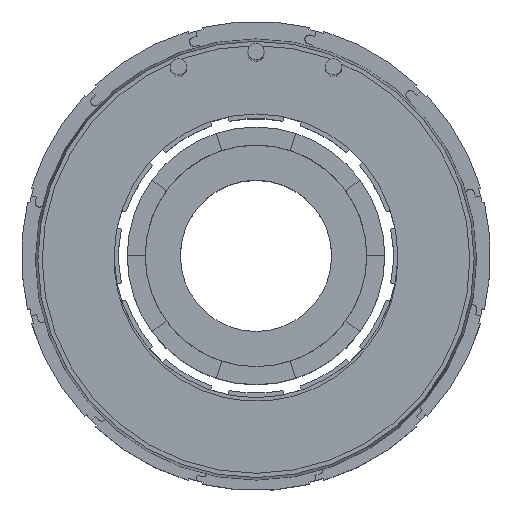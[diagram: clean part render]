
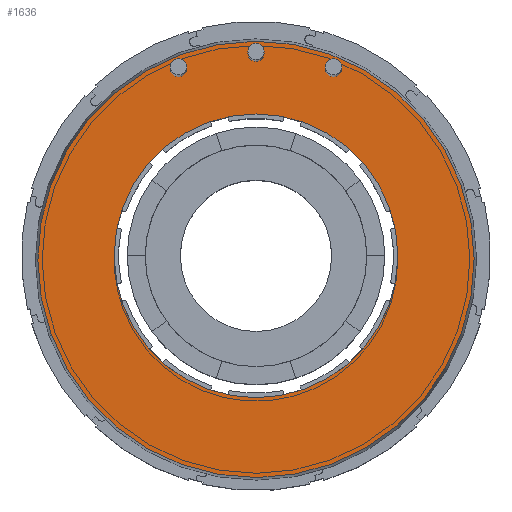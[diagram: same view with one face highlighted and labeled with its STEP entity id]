
A CAD part, top view. The second image highlights one B-rep face of the part: STEP entity #1636.
In plain terms, the highlighted planar face has unit normal (0, 0, 1).
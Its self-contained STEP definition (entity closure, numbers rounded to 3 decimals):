
#353 = ORIENTED_EDGE ( 'NONE', *, *, #12346, .F. ) ;
#415 = CARTESIAN_POINT ( 'NONE',  ( -25.495, -17.102, 47.135 ) ) ;
#482 = EDGE_LOOP ( 'NONE', ( #353, #11334 ) ) ;
#489 = DIRECTION ( 'NONE',  ( 0., -1., 0. ) ) ;
#522 = DIRECTION ( 'NONE',  ( -0.939, -0.345, 0. ) ) ;
#607 = CARTESIAN_POINT ( 'NONE',  ( -9.745, -17.102, 47.135 ) ) ;
#612 = CARTESIAN_POINT ( 'NONE',  ( -18.356, 3.685, 47.135 ) ) ;
#638 = AXIS2_PLACEMENT_3D ( 'NONE', #3180, #8429, #4326 ) ;
#933 = CARTESIAN_POINT ( 'NONE',  ( -19.256, 3.685, 47.135 ) ) ;
#952 = ORIENTED_EDGE ( 'NONE', *, *, #3616, .F. ) ;
#991 = CARTESIAN_POINT ( 'NONE',  ( -1.135, 3.685, 47.135 ) ) ;
#1023 = EDGE_LOOP ( 'NONE', ( #2199, #4315 ) ) ;
#1176 = CARTESIAN_POINT ( 'NONE',  ( -10.645, 5.398, 47.135 ) ) ;
#1181 = EDGE_CURVE ( 'NONE', #8654, #3809, #8062, .T. ) ;
#1385 = CARTESIAN_POINT ( 'NONE',  ( 12.993, -9.138, 47.135 ) ) ;
#1619 = CARTESIAN_POINT ( 'NONE',  ( -9.745, -17.502, 47.135 ) ) ;
#1636 = ADVANCED_FACE ( 'NONE', ( #5088, #4095, #7178, #12583, #13897 ), #7389, .F. ) ;
#2104 = VERTEX_POINT ( 'NONE', #8394 ) ;
#2112 = CARTESIAN_POINT ( 'NONE',  ( -1.135, 3.685, 47.135 ) ) ;
#2199 = ORIENTED_EDGE ( 'NONE', *, *, #5093, .F. ) ;
#2340 = CARTESIAN_POINT ( 'NONE',  ( -9.745, 5.398, 47.135 ) ) ;
#2494 = DIRECTION ( 'NONE',  ( 0., 0., 1. ) ) ;
#2926 = EDGE_CURVE ( 'NONE', #2104, #13371, #10727, .T. ) ;
#2992 = DIRECTION ( 'NONE',  ( -1., 0., 0. ) ) ;
#3180 = CARTESIAN_POINT ( 'NONE',  ( -9.745, -17.502, 47.135 ) ) ;
#3339 = AXIS2_PLACEMENT_3D ( 'NONE', #612, #4917, #2992 ) ;
#3357 = CARTESIAN_POINT ( 'NONE',  ( -9.745, 5.398, 47.135 ) ) ;
#3542 = AXIS2_PLACEMENT_3D ( 'NONE', #991, #13150, #9897 ) ;
#3616 = EDGE_CURVE ( 'NONE', #3809, #8654, #4690, .T. ) ;
#3696 = EDGE_CURVE ( 'NONE', #11003, #10105, #3756, .T. ) ;
#3756 = CIRCLE ( 'NONE', #9046, 0.9 ) ;
#3809 = VERTEX_POINT ( 'NONE', #415 ) ;
#3909 = DIRECTION ( 'NONE',  ( 0., 0., 1. ) ) ;
#4095 = FACE_BOUND ( 'NONE', #1023, .T. ) ;
#4195 = DIRECTION ( 'NONE',  ( 0., 0., 1. ) ) ;
#4315 = ORIENTED_EDGE ( 'NONE', *, *, #7695, .F. ) ;
#4326 = DIRECTION ( 'NONE',  ( -0.939, -0.345, 0. ) ) ;
#4401 = AXIS2_PLACEMENT_3D ( 'NONE', #607, #9164, #11604 ) ;
#4627 = DIRECTION ( 'NONE',  ( 0., 0., 1. ) ) ;
#4690 = CIRCLE ( 'NONE', #5124, 15.75 ) ;
#4701 = CARTESIAN_POINT ( 'NONE',  ( -18.356, 3.685, 47.135 ) ) ;
#4917 = DIRECTION ( 'NONE',  ( 0., 0., 1. ) ) ;
#5088 = FACE_BOUND ( 'NONE', #9848, .T. ) ;
#5093 = EDGE_CURVE ( 'NONE', #8129, #7514, #10213, .T. ) ;
#5124 = AXIS2_PLACEMENT_3D ( 'NONE', #11954, #9795, #8665 ) ;
#5144 = VERTEX_POINT ( 'NONE', #13865 ) ;
#5484 = AXIS2_PLACEMENT_3D ( 'NONE', #1619, #3909, #522 ) ;
#5500 = CARTESIAN_POINT ( 'NONE',  ( -2.035, 3.685, 47.135 ) ) ;
#5700 = CARTESIAN_POINT ( 'NONE',  ( 6.005, -17.102, 47.135 ) ) ;
#6029 = CARTESIAN_POINT ( 'NONE',  ( -4.481, -31.814, 47.135 ) ) ;
#6092 = AXIS2_PLACEMENT_3D ( 'NONE', #4701, #4627, #7936 ) ;
#6747 = EDGE_LOOP ( 'NONE', ( #11522, #12554 ) ) ;
#6787 = AXIS2_PLACEMENT_3D ( 'NONE', #3357, #9692, #13152 ) ;
#6864 = EDGE_CURVE ( 'NONE', #5144, #13247, #13013, .T. ) ;
#7169 = CARTESIAN_POINT ( 'NONE',  ( -17.456, 3.685, 47.135 ) ) ;
#7178 = FACE_BOUND ( 'NONE', #8911, .T. ) ;
#7181 = CIRCLE ( 'NONE', #13158, 0.9 ) ;
#7389 = PLANE ( 'NONE',  #10492 ) ;
#7514 = VERTEX_POINT ( 'NONE', #7169 ) ;
#7695 = EDGE_CURVE ( 'NONE', #7514, #8129, #13936, .T. ) ;
#7789 = CARTESIAN_POINT ( 'NONE',  ( -0.235, 3.685, 47.135 ) ) ;
#7936 = DIRECTION ( 'NONE',  ( -1., 0., 0. ) ) ;
#8062 = CIRCLE ( 'NONE', #4401, 15.75 ) ;
#8129 = VERTEX_POINT ( 'NONE', #933 ) ;
#8394 = CARTESIAN_POINT ( 'NONE',  ( -32.483, -25.866, 47.135 ) ) ;
#8429 = DIRECTION ( 'NONE',  ( 0., 0., 1. ) ) ;
#8654 = VERTEX_POINT ( 'NONE', #5700 ) ;
#8665 = DIRECTION ( 'NONE',  ( 1., 0., 0. ) ) ;
#8844 = ORIENTED_EDGE ( 'NONE', *, *, #9596, .F. ) ;
#8911 = EDGE_LOOP ( 'NONE', ( #13575, #8844 ) ) ;
#8983 = EDGE_CURVE ( 'NONE', #13371, #2104, #9405, .T. ) ;
#9046 = AXIS2_PLACEMENT_3D ( 'NONE', #2112, #4195, #12905 ) ;
#9048 = CIRCLE ( 'NONE', #3542, 0.9 ) ;
#9164 = DIRECTION ( 'NONE',  ( 0., 0., 1. ) ) ;
#9405 = CIRCLE ( 'NONE', #5484, 24.227 ) ;
#9596 = EDGE_CURVE ( 'NONE', #10105, #11003, #9048, .T. ) ;
#9692 = DIRECTION ( 'NONE',  ( 0., 0., 1. ) ) ;
#9795 = DIRECTION ( 'NONE',  ( 0., 0., 1. ) ) ;
#9848 = EDGE_LOOP ( 'NONE', ( #10652, #952 ) ) ;
#9897 = DIRECTION ( 'NONE',  ( -1., 0., 0. ) ) ;
#10105 = VERTEX_POINT ( 'NONE', #7789 ) ;
#10213 = CIRCLE ( 'NONE', #6092, 0.9 ) ;
#10492 = AXIS2_PLACEMENT_3D ( 'NONE', #6029, #11780, #489 ) ;
#10652 = ORIENTED_EDGE ( 'NONE', *, *, #1181, .F. ) ;
#10727 = CIRCLE ( 'NONE', #638, 24.227 ) ;
#11003 = VERTEX_POINT ( 'NONE', #5500 ) ;
#11334 = ORIENTED_EDGE ( 'NONE', *, *, #6864, .F. ) ;
#11522 = ORIENTED_EDGE ( 'NONE', *, *, #8983, .T. ) ;
#11604 = DIRECTION ( 'NONE',  ( 1., 0., 0. ) ) ;
#11780 = DIRECTION ( 'NONE',  ( 0., 0., -1. ) ) ;
#11954 = CARTESIAN_POINT ( 'NONE',  ( -9.745, -17.102, 47.135 ) ) ;
#12346 = EDGE_CURVE ( 'NONE', #13247, #5144, #7181, .T. ) ;
#12405 = DIRECTION ( 'NONE',  ( -1., 0., 0. ) ) ;
#12554 = ORIENTED_EDGE ( 'NONE', *, *, #2926, .T. ) ;
#12583 = FACE_BOUND ( 'NONE', #482, .T. ) ;
#12905 = DIRECTION ( 'NONE',  ( -1., 0., 0. ) ) ;
#13013 = CIRCLE ( 'NONE', #6787, 0.9 ) ;
#13150 = DIRECTION ( 'NONE',  ( 0., 0., 1. ) ) ;
#13152 = DIRECTION ( 'NONE',  ( -1., 0., 0. ) ) ;
#13158 = AXIS2_PLACEMENT_3D ( 'NONE', #2340, #2494, #12405 ) ;
#13247 = VERTEX_POINT ( 'NONE', #1176 ) ;
#13371 = VERTEX_POINT ( 'NONE', #1385 ) ;
#13575 = ORIENTED_EDGE ( 'NONE', *, *, #3696, .F. ) ;
#13865 = CARTESIAN_POINT ( 'NONE',  ( -8.845, 5.398, 47.135 ) ) ;
#13897 = FACE_OUTER_BOUND ( 'NONE', #6747, .T. ) ;
#13936 = CIRCLE ( 'NONE', #3339, 0.9 ) ;
